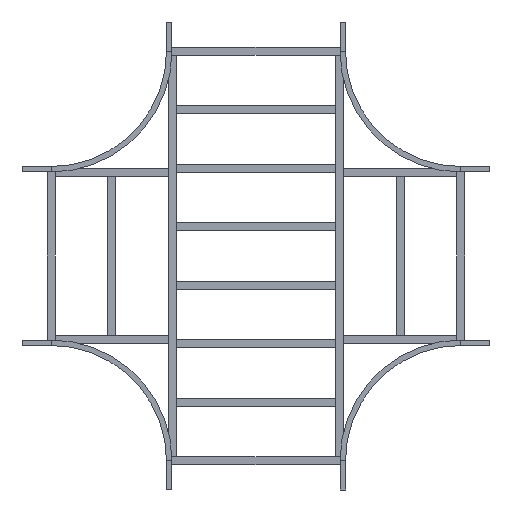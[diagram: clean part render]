
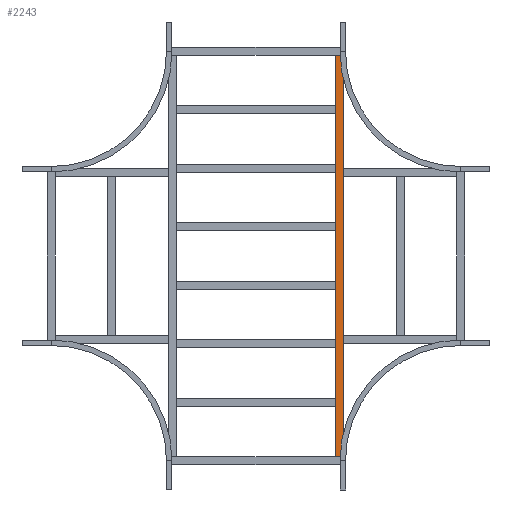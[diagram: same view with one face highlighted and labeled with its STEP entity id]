
A CAD part, front view. The second image highlights one B-rep face of the part: STEP entity #2243.
In plain terms, the highlighted planar face has unit normal (0, -1, 0).
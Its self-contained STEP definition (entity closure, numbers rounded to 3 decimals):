
#23 = VERTEX_POINT ( 'NONE', #458 ) ;
#91 = LINE ( 'NONE', #2183, #1746 ) ;
#127 = CARTESIAN_POINT ( 'NONE',  ( 1029.75, 0., -20.25 ) ) ;
#132 = DIRECTION ( 'NONE',  ( 0., 0., -1. ) ) ;
#357 = DIRECTION ( 'NONE',  ( -1., 0., 0. ) ) ;
#371 = VECTOR ( 'NONE', #132, 1000. ) ;
#458 = CARTESIAN_POINT ( 'NONE',  ( -1029.75, 0., -20.25 ) ) ;
#549 = ORIENTED_EDGE ( 'NONE', *, *, #2257, .F. ) ;
#582 = PLANE ( 'NONE',  #2453 ) ;
#729 = DIRECTION ( 'NONE',  ( 0., 1., 0. ) ) ;
#834 = DIRECTION ( 'NONE',  ( 0., 0., -1. ) ) ;
#852 = ORIENTED_EDGE ( 'NONE', *, *, #1566, .F. ) ;
#892 = DIRECTION ( 'NONE',  ( -1., 0., 0. ) ) ;
#1011 = CARTESIAN_POINT ( 'NONE',  ( -1029.75, 0., 20.25 ) ) ;
#1082 = VERTEX_POINT ( 'NONE', #1011 ) ;
#1098 = VERTEX_POINT ( 'NONE', #1828 ) ;
#1202 = VECTOR ( 'NONE', #834, 1000. ) ;
#1246 = CARTESIAN_POINT ( 'NONE',  ( -1029.75, 0., 20.25 ) ) ;
#1335 = EDGE_CURVE ( 'NONE', #2701, #1082, #91, .T. ) ;
#1358 = DIRECTION ( 'NONE',  ( 0., 0., 1. ) ) ;
#1389 = VECTOR ( 'NONE', #357, 1000. ) ;
#1463 = ORIENTED_EDGE ( 'NONE', *, *, #1335, .T. ) ;
#1566 = EDGE_CURVE ( 'NONE', #1098, #23, #1803, .T. ) ;
#1615 = FACE_OUTER_BOUND ( 'NONE', #2036, .T. ) ;
#1624 = CARTESIAN_POINT ( 'NONE',  ( 1029.75, 0., 20.25 ) ) ;
#1746 = VECTOR ( 'NONE', #892, 1000. ) ;
#1803 = LINE ( 'NONE', #127, #1389 ) ;
#1828 = CARTESIAN_POINT ( 'NONE',  ( 1029.75, 0., -20.25 ) ) ;
#1904 = ORIENTED_EDGE ( 'NONE', *, *, #2413, .T. ) ;
#2036 = EDGE_LOOP ( 'NONE', ( #1904, #852, #549, #1463 ) ) ;
#2183 = CARTESIAN_POINT ( 'NONE',  ( 1029.75, 0., 20.25 ) ) ;
#2243 = ADVANCED_FACE ( 'NONE', ( #1615 ), #582, .F. ) ;
#2257 = EDGE_CURVE ( 'NONE', #2701, #1098, #2484, .T. ) ;
#2303 = LINE ( 'NONE', #1246, #1202 ) ;
#2413 = EDGE_CURVE ( 'NONE', #1082, #23, #2303, .T. ) ;
#2431 = CARTESIAN_POINT ( 'NONE',  ( 1029.75, 0., 20.25 ) ) ;
#2442 = CARTESIAN_POINT ( 'NONE',  ( 1029.75, 0., 20.25 ) ) ;
#2453 = AXIS2_PLACEMENT_3D ( 'NONE', #2431, #729, #1358 ) ;
#2484 = LINE ( 'NONE', #2442, #371 ) ;
#2701 = VERTEX_POINT ( 'NONE', #1624 ) ;
